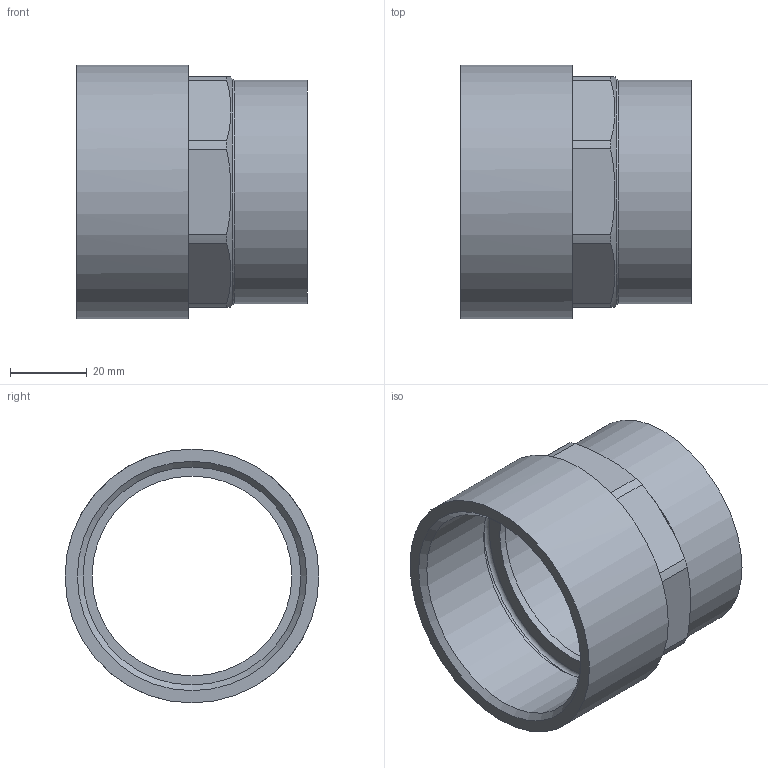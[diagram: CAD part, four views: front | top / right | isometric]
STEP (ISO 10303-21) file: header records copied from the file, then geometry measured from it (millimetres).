
FILE_DESCRIPTION((''),'2;1');
FILE_NAME('\\Lg50001\groups\SANHA Legnica\Engineering\Public\RYSUNKI\SANHA POLSKA\4270G\STEP\14270g_54-2(3).stp','2010-07-23T11:37:07',('pajchrowski'),(''),'Autodesk Inventor 2009','Autodesk Inventor 2009','');
FILE_SCHEMA(('AUTOMOTIVE_DESIGN { 1 0 10303 214 1 1 1 1 }'));
Length unit declared in the file: millimetre
Products named in the file (1): 14270g_54-2(3)
Bounding box: 60 x 66 x 66 mm (x, y, z)
Volume: 40605.2 mm3; surface area: 25236.6 mm2
Topology: 1 solids, 1 shells, 32 faces, 76 edges, 49 vertices
Faces by surface type: cylinder 14, plane 13, cone 3, torus 1, bspline 1
Full cylindrical faces by diameter (mm): 52 x1, 54 x1, 56.656 x1, 58.2 x1, 61.8 x1, 66 x1
Entity records: 920 total; most frequent: CARTESIAN_POINT 203, DIRECTION 150, ORIENTED_EDGE 126, AXIS2_PLACEMENT_3D 63, EDGE_CURVE 63, EDGE_LOOP 48, VERTEX_POINT 47, FACE_OUTER_BOUND 32
